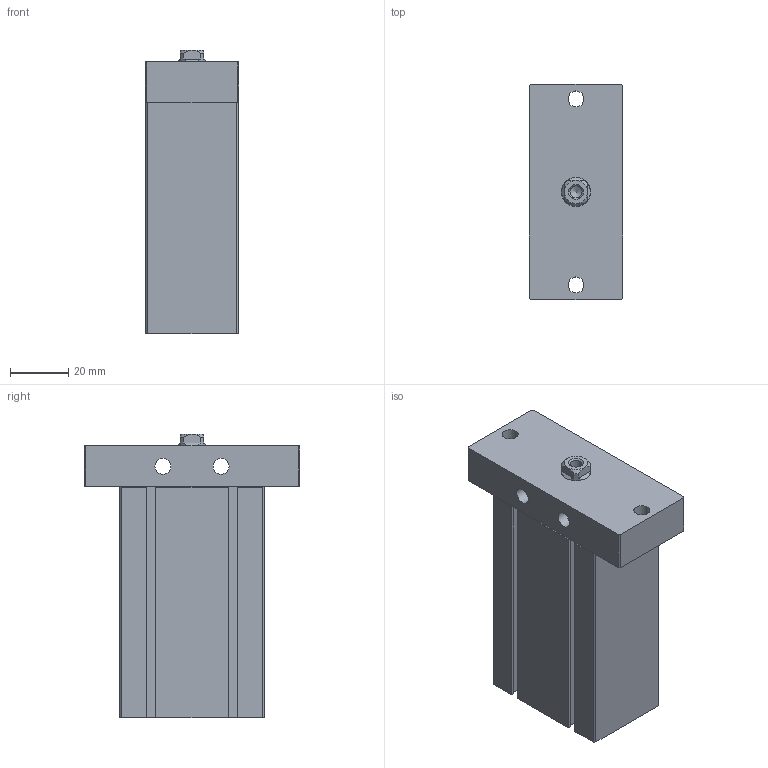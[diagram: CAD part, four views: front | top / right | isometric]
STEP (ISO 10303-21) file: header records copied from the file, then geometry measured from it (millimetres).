
FILE_DESCRIPTION((''),'2;1');
FILE_NAME('J:\3D電子目錄\氣缸\ND\ND\ND25-F\ND25x50-F.stp','2008-03-12T14:15:32',('66-2f-008'),(''),'Autodesk Inventor 11','Autodesk Inventor 11','');
FILE_SCHEMA(('AUTOMOTIVE_DESIGN { 1 0 10303 214 1 1 1 1 }'));
Length unit declared in the file: millimetre
Products named in the file (1): ND25-F
Bounding box: 32 x 74 x 97.5 mm (x, y, z)
Volume: 148157.2 mm3; surface area: 28076.3 mm2
Topology: 2 solids, 2 shells, 119 faces, 289 edges, 183 vertices
Faces by surface type: plane 79, bspline 16, cone 12, cylinder 11, torus 1
Full cylindrical faces by diameter (mm): 1.5 x2, 5.5 x2, 17 x1, 28 x1, 29.4 x1
Entity records: 3424 total; most frequent: CARTESIAN_POINT 784, DIRECTION 516, ORIENTED_EDGE 510, EDGE_CURVE 255, VECTOR 186, LINE 186, VERTEX_POINT 177, AXIS2_PLACEMENT_3D 165
